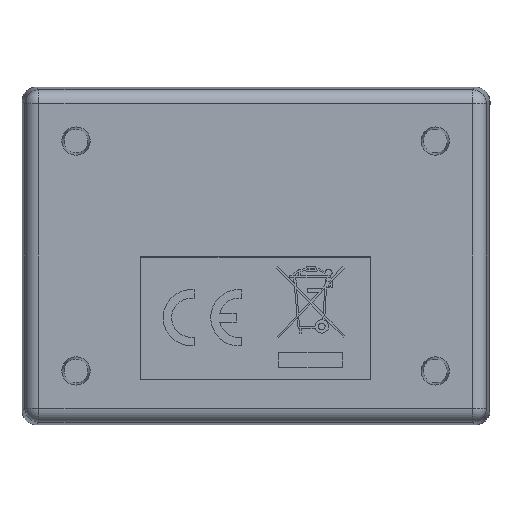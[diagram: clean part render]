
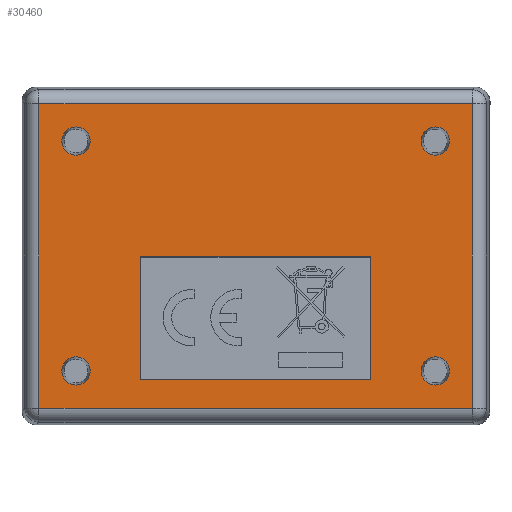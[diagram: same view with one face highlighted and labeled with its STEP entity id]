
A CAD part, front view. The second image highlights one B-rep face of the part: STEP entity #30460.
In plain terms, the highlighted planar face has unit normal (0, -1, 0) as drawn and (0, 0, -1) by its records, which use the part's own axes.
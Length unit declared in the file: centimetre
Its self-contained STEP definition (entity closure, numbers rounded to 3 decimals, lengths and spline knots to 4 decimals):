
#6155=VECTOR('',#33583,1.);
#6158=VECTOR('',#33587,1.);
#6161=VECTOR('',#33591,1.);
#6164=VECTOR('',#33595,1.);
#6325=VECTOR('',#33828,1.);
#6326=VECTOR('',#33829,1.);
#6327=VECTOR('',#33830,1.);
#6328=VECTOR('',#33831,1.);
#9100=LINE('',#39011,#6155);
#9103=LINE('',#39017,#6158);
#9106=LINE('',#39023,#6161);
#9109=LINE('',#39028,#6164);
#9270=LINE('',#40103,#6325);
#9271=LINE('',#40106,#6326);
#9272=LINE('',#40108,#6327);
#9273=LINE('',#40110,#6328);
#12021=PLANE('',#31866);
#12960=VERTEX_POINT('',#39010);
#12961=VERTEX_POINT('',#39012);
#12963=VERTEX_POINT('',#39018);
#12965=VERTEX_POINT('',#39024);
#13086=VERTEX_POINT('',#40096);
#13087=VERTEX_POINT('',#40098);
#13088=VERTEX_POINT('',#40100);
#13089=VERTEX_POINT('',#40102);
#13090=VERTEX_POINT('',#40104);
#13091=VERTEX_POINT('',#40105);
#13092=VERTEX_POINT('',#40107);
#13093=VERTEX_POINT('',#40109);
#15429=CIRCLE('',#31867,0.1249);
#15430=CIRCLE('',#31868,0.1249);
#15431=CIRCLE('',#31869,0.1249);
#15432=CIRCLE('',#31870,0.1249);
#15817=EDGE_CURVE('',#12961,#12960,#9100,.F.);
#15820=EDGE_CURVE('',#12963,#12961,#9103,.F.);
#15823=EDGE_CURVE('',#12965,#12963,#9106,.F.);
#15826=EDGE_CURVE('',#12960,#12965,#9109,.F.);
#16007=EDGE_CURVE('',#13086,#13086,#15429,.F.);
#16008=EDGE_CURVE('',#13087,#13087,#15430,.F.);
#16009=EDGE_CURVE('',#13088,#13088,#15431,.F.);
#16010=EDGE_CURVE('',#13089,#13089,#15432,.F.);
#16011=EDGE_CURVE('',#13090,#13091,#9270,.T.);
#16012=EDGE_CURVE('',#13092,#13090,#9271,.T.);
#16013=EDGE_CURVE('',#13093,#13092,#9272,.T.);
#16014=EDGE_CURVE('',#13091,#13093,#9273,.T.);
#20196=ORIENTED_EDGE('',*,*,#16007,.T.);
#20197=ORIENTED_EDGE('',*,*,#16008,.T.);
#20198=ORIENTED_EDGE('',*,*,#16009,.T.);
#20199=ORIENTED_EDGE('',*,*,#16010,.T.);
#20200=ORIENTED_EDGE('',*,*,#16011,.F.);
#20201=ORIENTED_EDGE('',*,*,#16012,.F.);
#20202=ORIENTED_EDGE('',*,*,#16013,.F.);
#20203=ORIENTED_EDGE('',*,*,#16014,.F.);
#20204=ORIENTED_EDGE('',*,*,#15817,.T.);
#20205=ORIENTED_EDGE('',*,*,#15826,.T.);
#20206=ORIENTED_EDGE('',*,*,#15823,.T.);
#20207=ORIENTED_EDGE('',*,*,#15820,.T.);
#27408=EDGE_LOOP('',(#20196));
#27409=EDGE_LOOP('',(#20197));
#27410=EDGE_LOOP('',(#20198));
#27411=EDGE_LOOP('',(#20199));
#27412=EDGE_LOOP('',(#20200,#20201,#20202,#20203));
#27413=EDGE_LOOP('',(#20204,#20205,#20206,#20207));
#28941=FACE_BOUND('',#27408,.T.);
#28942=FACE_BOUND('',#27409,.T.);
#28943=FACE_BOUND('',#27410,.T.);
#28944=FACE_BOUND('',#27411,.T.);
#28945=FACE_BOUND('',#27412,.T.);
#28946=FACE_BOUND('',#27413,.T.);
#30460=ADVANCED_FACE('',(#28941,#28942,#28943,#28944,#28945,#28946),#12021,
 .F.);
#31866=AXIS2_PLACEMENT_3D('',#40094,#33819,$);
#31867=AXIS2_PLACEMENT_3D('',#40095,#33820,#33821);
#31868=AXIS2_PLACEMENT_3D('',#40097,#33822,#33823);
#31869=AXIS2_PLACEMENT_3D('',#40099,#33824,#33825);
#31870=AXIS2_PLACEMENT_3D('',#40101,#33826,#33827);
#33583=DIRECTION('',(-1.,0.,0.));
#33587=DIRECTION('',(0.,1.,0.));
#33591=DIRECTION('',(1.,0.,0.));
#33595=DIRECTION('',(0.,-1.,0.));
#33819=DIRECTION('',(0.,0.,1.));
#33820=DIRECTION('',(0.,0.,-1.));
#33821=DIRECTION('',(-0.125,0.,0.));
#33822=DIRECTION('',(0.,0.,-1.));
#33823=DIRECTION('',(-0.125,0.,0.));
#33824=DIRECTION('',(0.,0.,-1.));
#33825=DIRECTION('',(-0.125,0.,0.));
#33826=DIRECTION('',(0.,0.,-1.));
#33827=DIRECTION('',(-0.125,0.,0.));
#33828=DIRECTION('',(-1.,0.,0.));
#33829=DIRECTION('',(0.,1.,0.));
#33830=DIRECTION('',(1.,0.,0.));
#33831=DIRECTION('',(0.,-1.,0.));
#39010=CARTESIAN_POINT('',(1.091,-1.0176,-0.0032));
#39011=CARTESIAN_POINT('',(0.1374,-1.0176,-0.0032));
#39012=CARTESIAN_POINT('',(0.0083,-1.0176,-0.0032));
#39017=CARTESIAN_POINT('',(0.0083,0.,-0.0032));
#39018=CARTESIAN_POINT('',(0.0083,1.0176,-0.0032));
#39023=CARTESIAN_POINT('',(0.1374,1.0176,-0.0032));
#39024=CARTESIAN_POINT('',(1.091,1.0176,-0.0032));
#39028=CARTESIAN_POINT('',(1.091,0.,-0.0032));
#40094=CARTESIAN_POINT('',(0.,0.,-0.0032));
#40095=CARTESIAN_POINT('',(1.016,1.5875,-0.0032));
#40096=CARTESIAN_POINT('',(1.1409,1.5875,-0.0032));
#40097=CARTESIAN_POINT('',(1.016,-1.5875,-0.0032));
#40098=CARTESIAN_POINT('',(1.1409,-1.5875,-0.0032));
#40099=CARTESIAN_POINT('',(-1.016,-1.5875,-0.0032));
#40100=CARTESIAN_POINT('',(-0.8911,-1.5875,-0.0032));
#40101=CARTESIAN_POINT('',(-1.016,1.5875,-0.0032));
#40102=CARTESIAN_POINT('',(-0.8911,1.5875,-0.0032));
#40103=CARTESIAN_POINT('',(0.,1.9149,-0.0032));
#40104=CARTESIAN_POINT('',(1.3434,1.9149,-0.0032));
#40105=CARTESIAN_POINT('',(-1.3434,1.9149,-0.0032));
#40106=CARTESIAN_POINT('',(1.3434,0.,-0.0032));
#40107=CARTESIAN_POINT('',(1.3434,-1.9149,-0.0032));
#40108=CARTESIAN_POINT('',(0.,-1.9149,-0.0032));
#40109=CARTESIAN_POINT('',(-1.3434,-1.9149,-0.0032));
#40110=CARTESIAN_POINT('',(-1.3434,0.,-0.0032));
